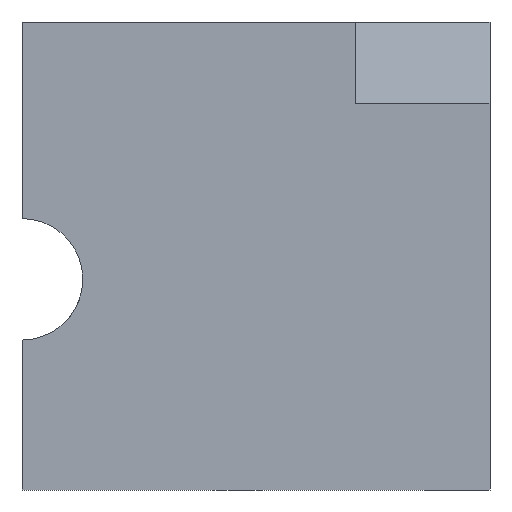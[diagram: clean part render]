
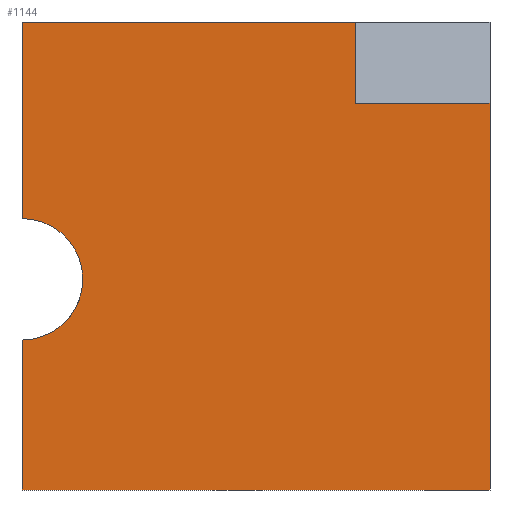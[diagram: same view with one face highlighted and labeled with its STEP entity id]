
A CAD part, front view. The second image highlights one B-rep face of the part: STEP entity #1144.
In plain terms, the highlighted planar face has unit normal (0, -1, 0).
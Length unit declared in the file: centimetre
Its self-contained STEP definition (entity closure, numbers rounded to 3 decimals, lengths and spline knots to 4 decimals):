
#25 = VERTEX_POINT ( 'NONE', #261 ) ;
#55 = EDGE_CURVE ( 'NONE', #440, #25, #906, .T. ) ;
#63 = AXIS2_PLACEMENT_3D ( 'NONE', #585, #1147, #604 ) ;
#75 = LINE ( 'NONE', #97, #1392 ) ;
#97 = CARTESIAN_POINT ( 'NONE',  ( 711.5885, 0., 826.3449 ) ) ;
#98 = CARTESIAN_POINT ( 'NONE',  ( 0., 0., 1000. ) ) ;
#200 = CARTESIAN_POINT ( 'NONE',  ( 0., 0., 1000. ) ) ;
#208 = FACE_OUTER_BOUND ( 'NONE', #690, .T. ) ;
#237 = CARTESIAN_POINT ( 'NONE',  ( 0., 0., 1000. ) ) ;
#261 = CARTESIAN_POINT ( 'NONE',  ( 711.5885, 0., 826.3449 ) ) ;
#269 = DIRECTION ( 'NONE',  ( 0., 0., -1. ) ) ;
#277 = ORIENTED_EDGE ( 'NONE', *, *, #890, .F. ) ;
#308 = CARTESIAN_POINT ( 'NONE',  ( 1000., 0., 1000. ) ) ;
#324 = EDGE_CURVE ( 'NONE', #546, #672, #1245, .T. ) ;
#348 = CARTESIAN_POINT ( 'NONE',  ( 0., 0., 0. ) ) ;
#415 = CARTESIAN_POINT ( 'NONE',  ( 0., 0., 0. ) ) ;
#423 = CARTESIAN_POINT ( 'NONE',  ( 0., 0., 1000. ) ) ;
#424 = CARTESIAN_POINT ( 'NONE',  ( 711.5885, 0., 1000. ) ) ;
#440 = VERTEX_POINT ( 'NONE', #424 ) ;
#444 = EDGE_CURVE ( 'NONE', #1254, #453, #1165, .T. ) ;
#453 = VERTEX_POINT ( 'NONE', #1035 ) ;
#461 = EDGE_CURVE ( 'NONE', #546, #1254, #529, .T. ) ;
#474 = VECTOR ( 'NONE', #269, 100. ) ;
#478 = ORIENTED_EDGE ( 'NONE', *, *, #444, .T. ) ;
#499 = AXIS2_PLACEMENT_3D ( 'NONE', #237, #647, #1277 ) ;
#511 = DIRECTION ( 'NONE',  ( 1., 0., 0. ) ) ;
#529 = LINE ( 'NONE', #961, #929 ) ;
#530 = VERTEX_POINT ( 'NONE', #1383 ) ;
#546 = VERTEX_POINT ( 'NONE', #716 ) ;
#547 = VECTOR ( 'NONE', #940, 100. ) ;
#585 = CARTESIAN_POINT ( 'NONE',  ( 0., 0., 450.2121 ) ) ;
#588 = ORIENTED_EDGE ( 'NONE', *, *, #997, .F. ) ;
#594 = ORIENTED_EDGE ( 'NONE', *, *, #324, .F. ) ;
#604 = DIRECTION ( 'NONE',  ( 0., 0., -1. ) ) ;
#616 = LINE ( 'NONE', #98, #973 ) ;
#626 = ORIENTED_EDGE ( 'NONE', *, *, #989, .T. ) ;
#637 = EDGE_CURVE ( 'NONE', #25, #530, #75, .T. ) ;
#647 = DIRECTION ( 'NONE',  ( 0., 1., 0. ) ) ;
#672 = VERTEX_POINT ( 'NONE', #1045 ) ;
#690 = EDGE_LOOP ( 'NONE', ( #626, #594, #868, #478, #588, #1020, #1126, #277 ) ) ;
#716 = CARTESIAN_POINT ( 'NONE',  ( 0., 0., 320.4009 ) ) ;
#728 = DIRECTION ( 'NONE',  ( 1., 0., 0. ) ) ;
#759 = PLANE ( 'NONE',  #499 ) ;
#826 = LINE ( 'NONE', #200, #547 ) ;
#829 = LINE ( 'NONE', #308, #1177 ) ;
#868 = ORIENTED_EDGE ( 'NONE', *, *, #461, .T. ) ;
#890 = EDGE_CURVE ( 'NONE', #925, #440, #616, .T. ) ;
#906 = LINE ( 'NONE', #1356, #474 ) ;
#925 = VERTEX_POINT ( 'NONE', #423 ) ;
#929 = VECTOR ( 'NONE', #1056, 100. ) ;
#940 = DIRECTION ( 'NONE',  ( 0., 0., -1. ) ) ;
#961 = CARTESIAN_POINT ( 'NONE',  ( 0., 0., 1000. ) ) ;
#973 = VECTOR ( 'NONE', #511, 100. ) ;
#989 = EDGE_CURVE ( 'NONE', #925, #672, #826, .T. ) ;
#997 = EDGE_CURVE ( 'NONE', #530, #453, #829, .T. ) ;
#1020 = ORIENTED_EDGE ( 'NONE', *, *, #637, .F. ) ;
#1035 = CARTESIAN_POINT ( 'NONE',  ( 1000., 0., 0. ) ) ;
#1045 = CARTESIAN_POINT ( 'NONE',  ( 0., 0., 580.0232 ) ) ;
#1056 = DIRECTION ( 'NONE',  ( 0., 0., -1. ) ) ;
#1126 = ORIENTED_EDGE ( 'NONE', *, *, #55, .F. ) ;
#1144 = ADVANCED_FACE ( 'NONE', ( #208 ), #759, .F. ) ;
#1147 = DIRECTION ( 'NONE',  ( 0., -1., 0. ) ) ;
#1160 = DIRECTION ( 'NONE',  ( 0., 0., -1. ) ) ;
#1165 = LINE ( 'NONE', #415, #1330 ) ;
#1177 = VECTOR ( 'NONE', #1160, 100. ) ;
#1245 = CIRCLE ( 'NONE', #63, 129.8111 ) ;
#1254 = VERTEX_POINT ( 'NONE', #348 ) ;
#1277 = DIRECTION ( 'NONE',  ( 0., 0., 1. ) ) ;
#1330 = VECTOR ( 'NONE', #728, 100. ) ;
#1356 = CARTESIAN_POINT ( 'NONE',  ( 711.5885, 0., 826.3449 ) ) ;
#1383 = CARTESIAN_POINT ( 'NONE',  ( 1000., 0., 826.3449 ) ) ;
#1392 = VECTOR ( 'NONE', #1393, 100. ) ;
#1393 = DIRECTION ( 'NONE',  ( 1., 0., 0. ) ) ;
